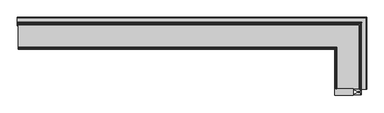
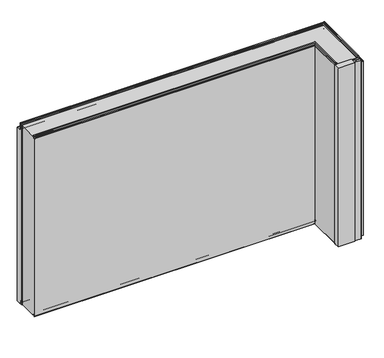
"""IFC4 building model written with IfcOpenShell, lengths in millimetres: plate geometry, Угловой модуль Fronttop : Угловой модуль Fronttop 150/1000."""

from ifc_helpers import new_model, si_unit, point, frame, frame_2d, origin, origin_with_axes, place, context, project, spatial, polyline, circle_curve, ellipse_curve, trimmed, segment, composite_curve, outline, extrude, source, transform, mapped, element, save
from ifc_brep_helpers import plane_surface, cylinder_surface, revolved_surface, advanced_brep


def plate_61fb994c(model_context):
    return source(origin(), model_context, "Body", "SolidModel", [
        extrude(outline(polyline([(800.0, -188.4948846), (800.0, -211.5051154), (798.5, -211.5051154), (798.5, -200.6502496), (784.0759655, -200.6502496), (784.0759655, -199.35), (798.5, -199.35), (798.5, -188.4948846), (800.0, -188.4948846)])), origin_with_axes(), (0.0, 0.0, 1.0), 1000.0),
        extrude(outline(composite_curve([segment(polyline([(798.5, -187.4998455), (798.5, -199.25), (782.5, -199.25), (782.5, -200.75), (798.5, -200.75), (798.5, -212.5001545), (765.0, -212.5001545), (765.0, -209.75), (767.5, -209.75)]), True, "CONTINUOUS"), segment(trimmed(circle_curve(frame_2d((764.3183984, -191.9661979)), 18.0661619), [point((767.5, -209.75))], [point((780.5, -200.0))], True, "CARTESIAN"), True, "CONTINUOUS"), segment(trimmed(circle_curve(frame_2d((764.3183984, -208.0338021)), 18.0661619), [point((780.5, -200.0))], [point((767.5, -190.25))], True, "CARTESIAN"), True, "CONTINUOUS"), segment(polyline([(767.5, -190.25), (765.0, -190.25), (765.0, -187.4998455), (798.5, -187.4998455)]), True, "CONTINUOUS")], self_intersect=False)), origin_with_axes(), (0.0, 0.0, 1.0), 1000.0),
        extrude(outline(polyline([(675.0, -215.5), (675.0, -184.5), (763.0, -184.5), (763.0, -215.5), (675.0, -215.5)])), origin_with_axes(), (0.0, 0.0, 1.0), 1000.0),
        advanced_brep(
        [(-811.5, 124.0, 1008.0), (-811.5, 121.0, 1008.0), (-811.5, 121.0, 1004.0), (-811.5, 117.0, 1000.0), (-811.5, 115.0, 1000.0), (-811.5, 115.0, 1001.0), (-811.5, 117.0, 1001.0), (-811.5, 120.0, 1004.0), (-811.5, 120.0, 1008.0), (-811.5, 125.0, 1008.0), (-811.5, 125.0, 1000.0), (-811.5, 124.0, 1000.0), (-811.5, 115.0, 2.0), (790.0, 115.0, 2.0), (790.0, 115.0, 3.0), (-811.5, 115.0, 3.0), (790.0, -186.5, 3.0), (792.0, -186.5, 3.0), (792.0, 117.0, 3.0), (-811.5, 117.0, 3.0), (793.0, 118.0, 4.0), (-811.5, 118.0, 4.0), (793.0, 118.0, 8.0), (-811.5, 118.0, 8.0), (802.0, 127.0, 8.0), (-811.5, 127.0, 8.0), (802.0, 127.0, 0.0), (-811.5, 127.0, 0.0), (804.0, 129.0, -2.0), (-811.5, 129.0, -2.0), (804.0, -186.5, -2.0), (822.0, -186.5, -2.0), (822.0, 147.0, -2.0), (-811.5, 147.0, -2.0), (824.0, 149.0, 0.0), (-811.5, 149.0, 0.0), (824.0, 149.0, 969.0), (-811.5, 149.0, 969.0), (822.0, 147.0, 971.0), (-811.5, 147.0, 971.0), (822.0, -186.5, 971.0), (803.0, -186.5, 971.0), (803.0, 128.0, 971.0), (-811.5, 128.0, 971.0), (799.0, 124.0, 975.0), (-811.5, 124.0, 975.0), (799.0, 124.0, 1008.0), (796.0, 121.0, 1008.0), (796.0, 121.0, 1004.0), (792.0, 117.0, 1000.0), (792.0, -186.5, 1000.0), (790.0, -186.5, 1000.0), (790.0, 115.0, 1000.0), (790.0, 115.0, 1001.0), (790.0, -186.5, 1001.0), (792.0, -186.5, 1001.0), (792.0, 117.0, 1001.0), (795.0, 120.0, 1004.0), (795.0, 120.0, 1008.0), (800.0, 125.0, 1008.0), (800.0, 125.0, 975.0), (-811.5, 125.0, 975.0), (-812.5, 125.0, 975.0), (-812.5, 125.0, 1000.0), (803.0, 128.0, 972.0), (-811.5, 128.0, 972.0), (803.0, -186.5, 972.0), (803.0, -187.5, 972.0), (822.0, -187.5, 972.0), (822.0, -186.5, 972.0), (822.0, 147.0, 972.0), (-811.5, 147.0, 972.0), (-812.5, 147.0, 972.0), (-812.5, 128.0, 972.0), (825.0, 150.0, 969.0), (-811.5, 150.0, 969.0), (825.0, 150.0, 0.0), (-811.5, 150.0, 0.0), (-812.5, 150.0, 0.0), (-812.5, 150.0, 969.0), (822.0, 147.0, -3.0), (-811.5, 147.0, -3.0), (822.0, -186.5, -3.0), (822.0, -187.5, -3.0), (800.0, -187.5, -3.0), (800.0, -186.5, -3.0), (804.0, -186.5, -3.0), (804.0, 129.0, -3.0), (-811.5, 129.0, -3.0), (-811.5, 125.0, -3.0), (-812.5, 125.0, -3.0), (-812.5, 147.0, -3.0), (801.0, 126.0, 0.0), (-811.5, 126.0, 0.0), (801.0, 126.0, 8.0), (-811.5, 126.0, 8.0), (794.0, 119.0, 8.0), (-811.5, 119.0, 8.0), (794.0, 119.0, 4.0), (-811.5, 119.0, 4.0), (792.0, 117.0, 2.0), (-811.5, 117.0, 2.0), (792.0, -186.5, 2.0), (790.0, -186.5, 2.0), (796.0, -186.5, 1004.0), (796.0, -186.5, 1008.0), (799.0, -186.5, 1008.0), (799.0, -186.5, 1000.0), (800.0, -186.5, 1000.0), (800.0, -186.5, 1008.0), (795.0, -186.5, 1008.0), (795.0, -186.5, 1004.0), (793.0, -186.5, 4.0), (793.0, -186.5, 8.0), (802.0, -186.5, 8.0), (802.0, -186.5, 0.0), (824.0, -186.5, 0.0), (824.0, -186.5, 969.0), (799.0, -186.5, 975.0), (800.0, -187.5, 1000.0), (800.0, -187.5, 975.0), (800.0, -186.5, 975.0), (825.0, -186.5, 969.0), (825.0, -187.5, 969.0), (825.0, -187.5, 0.0), (825.0, -186.5, 0.0), (801.0, -186.5, 0.0), (801.0, -186.5, 8.0), (794.0, -186.5, 8.0), (794.0, -186.5, 4.0), (-811.5, 110.0, 1000.0), (-811.5, 110.0, 0.0), (-811.5, 125.0, 0.0), (-812.5, 125.0, 0.0), (-812.5, 110.0, 0.0), (-812.5, 110.0, 1000.0), (785.0, -186.5, 0.0), (785.0, -186.5, 1000.0), (800.0, -186.5, 0.0), (785.0, -187.5, 0.0), (800.0, -187.5, 0.0), (785.0, -187.5, 1000.0)],
        [
            (0, 1, circle_curve(frame((-811.5, 122.5, 1008.0), z_axis=(1.0, 0.0, 0.0), x_axis=(0.0, -1.0, 0.0)), 1.5)),
            (1, 2),
            (2, 3, circle_curve(frame((-811.5, 117.0, 1004.0), z_axis=(-1.0, 0.0, 0.0), x_axis=(0.0, -1.0, 0.0)), 4.0)),
            (3, 4),
            (4, 5),
            (5, 6),
            (6, 7, circle_curve(frame((-811.5, 117.0, 1004.0), z_axis=(1.0, 0.0, 0.0), x_axis=(0.0, -1.0, 0.0)), 3.0)),
            (7, 8),
            (8, 9, circle_curve(frame((-811.5, 122.5, 1008.0), z_axis=(-1.0, 0.0, 0.0), x_axis=(0.0, -1.0, 0.0)), 2.5)),
            (9, 10),
            (10, 11),
            (11, 0),
            (12, 13),
            (13, 14),
            (14, 15),
            (15, 12),
            (14, 16),
            (16, 17),
            (17, 18),
            (18, 19),
            (19, 15),
            (18, 20, ellipse_curve(frame((792.0, 117.0, 4.0), z_axis=(0.7071067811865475, -0.7071067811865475, 0.0), x_axis=(0.7071067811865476, 0.7071067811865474, 0.0)), 1.4142136, 1.0)),
            (20, 21),
            (21, 19, circle_curve(frame((-811.5, 117.0, 4.0), z_axis=(-1.0, 0.0, 0.0), x_axis=(0.0, -1.0, 0.0)), 1.0)),
            (20, 22),
            (22, 23),
            (23, 21),
            (22, 24, ellipse_curve(frame((797.5, 122.5, 8.0), z_axis=(-0.7071067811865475, 0.7071067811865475, 0.0), x_axis=(-0.7071067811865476, -0.7071067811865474, 0.0)), 6.363961, 4.5)),
            (24, 25),
            (25, 23, circle_curve(frame((-811.5, 122.5, 8.0), z_axis=(1.0, 0.0, 0.0), x_axis=(0.0, -1.0, 0.0)), 4.5)),
            (24, 26),
            (26, 27),
            (27, 25),
            (26, 28, ellipse_curve(frame((804.0, 129.0, 0.0), z_axis=(0.7071067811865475, -0.7071067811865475, 0.0), x_axis=(0.7071067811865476, 0.7071067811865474, 0.0)), 2.8284271, 2.0)),
            (28, 29),
            (29, 27, circle_curve(frame((-811.5, 129.0, 0.0), z_axis=(-1.0, 0.0, 0.0), x_axis=(0.0, -1.0, 0.0)), 2.0)),
            (28, 30),
            (30, 31),
            (31, 32),
            (32, 33),
            (33, 29),
            (32, 34, ellipse_curve(frame((822.0, 147.0, 0.0), z_axis=(0.7071067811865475, -0.7071067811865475, 0.0), x_axis=(0.7071067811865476, 0.7071067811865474, 0.0)), 2.8284271, 2.0)),
            (34, 35),
            (35, 33, circle_curve(frame((-811.5, 147.0, 0.0), z_axis=(-1.0, 0.0, 0.0), x_axis=(0.0, -1.0, 0.0)), 2.0)),
            (34, 36),
            (36, 37),
            (37, 35),
            (36, 38, ellipse_curve(frame((822.0, 147.0, 969.0), z_axis=(0.7071067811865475, -0.7071067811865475, 0.0), x_axis=(0.7071067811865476, 0.7071067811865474, 0.0)), 2.8284271, 2.0)),
            (38, 39),
            (39, 37, circle_curve(frame((-811.5, 147.0, 969.0), z_axis=(-1.0, 0.0, 0.0), x_axis=(0.0, -1.0, 0.0)), 2.0)),
            (38, 40),
            (40, 41),
            (41, 42),
            (42, 43),
            (43, 39),
            (42, 44, ellipse_curve(frame((803.0, 128.0, 975.0), z_axis=(-0.7071067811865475, 0.7071067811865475, 0.0), x_axis=(-0.7071067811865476, -0.7071067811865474, 0.0)), 5.6568542, 4.0)),
            (44, 45),
            (45, 43, circle_curve(frame((-811.5, 128.0, 975.0), z_axis=(1.0, 0.0, 0.0), x_axis=(0.0, -1.0, 0.0)), 4.0)),
            (44, 46),
            (46, 0),
            (11, 45),
            (46, 47, ellipse_curve(frame((797.5, 122.5, 1008.0), z_axis=(0.7071067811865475, -0.7071067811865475, 0.0), x_axis=(0.7071067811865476, 0.7071067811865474, 0.0)), 2.1213203, 1.5)),
            (47, 1),
            (47, 48),
            (48, 2),
            (48, 49, ellipse_curve(frame((792.0, 117.0, 1004.0), z_axis=(-0.7071067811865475, 0.7071067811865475, 0.0), x_axis=(-0.7071067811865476, -0.7071067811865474, 0.0)), 5.6568542, 4.0)),
            (49, 3),
            (49, 50),
            (50, 51),
            (51, 52),
            (52, 4),
            (4, 3),
            (52, 53),
            (53, 5),
            (53, 54),
            (54, 55),
            (55, 56),
            (56, 6),
            (56, 57, ellipse_curve(frame((792.0, 117.0, 1004.0), z_axis=(0.7071067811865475, -0.7071067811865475, 0.0), x_axis=(0.7071067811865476, 0.7071067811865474, 0.0)), 4.2426407, 3.0)),
            (57, 7),
            (57, 58),
            (58, 8),
            (58, 59, ellipse_curve(frame((797.5, 122.5, 1008.0), z_axis=(-0.7071067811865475, 0.7071067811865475, 0.0), x_axis=(-0.7071067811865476, -0.7071067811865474, 0.0)), 3.5355339, 2.5)),
            (59, 9),
            (59, 60),
            (60, 61),
            (61, 62),
            (62, 63),
            (63, 10),
            (60, 64, ellipse_curve(frame((803.0, 128.0, 975.0), z_axis=(0.7071067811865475, -0.7071067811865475, 0.0), x_axis=(0.7071067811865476, 0.7071067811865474, 0.0)), 4.2426407, 3.0)),
            (64, 65),
            (65, 61, circle_curve(frame((-811.5, 128.0, 975.0), z_axis=(-1.0, 0.0, 0.0), x_axis=(0.0, -1.0, 0.0)), 3.0)),
            (64, 66),
            (66, 67),
            (67, 68),
            (68, 69),
            (69, 70),
            (70, 71),
            (71, 72),
            (72, 73),
            (73, 65),
            (70, 74, ellipse_curve(frame((822.0, 147.0, 969.0), z_axis=(-0.7071067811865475, 0.7071067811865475, 0.0), x_axis=(-0.7071067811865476, -0.7071067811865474, 0.0)), 4.2426407, 3.0)),
            (74, 75),
            (75, 71, circle_curve(frame((-811.5, 147.0, 969.0), z_axis=(1.0, 0.0, 0.0), x_axis=(0.0, -1.0, 0.0)), 3.0)),
            (74, 76),
            (76, 77),
            (77, 78),
            (78, 79),
            (79, 75),
            (76, 80, ellipse_curve(frame((822.0, 147.0, 0.0), z_axis=(-0.7071067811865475, 0.7071067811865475, 0.0), x_axis=(-0.7071067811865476, -0.7071067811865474, 0.0)), 4.2426407, 3.0)),
            (80, 81),
            (81, 77, circle_curve(frame((-811.5, 147.0, 0.0), z_axis=(1.0, 0.0, 0.0), x_axis=(0.0, -1.0, 0.0)), 3.0)),
            (80, 82),
            (82, 83),
            (83, 84),
            (84, 85),
            (85, 86),
            (86, 87),
            (87, 88),
            (88, 89),
            (89, 90),
            (90, 91),
            (91, 81),
            (87, 92, ellipse_curve(frame((804.0, 129.0, 0.0), z_axis=(-0.7071067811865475, 0.7071067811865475, 0.0), x_axis=(-0.7071067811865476, -0.7071067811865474, 0.0)), 4.2426407, 3.0)),
            (92, 93),
            (93, 88, circle_curve(frame((-811.5, 129.0, 0.0), z_axis=(1.0, 0.0, 0.0), x_axis=(0.0, -1.0, 0.0)), 3.0)),
            (92, 94),
            (94, 95),
            (95, 93),
            (94, 96, ellipse_curve(frame((797.5, 122.5, 8.0), z_axis=(0.7071067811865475, -0.7071067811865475, 0.0), x_axis=(0.7071067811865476, 0.7071067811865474, 0.0)), 4.9497475, 3.5)),
            (96, 97),
            (97, 95, circle_curve(frame((-811.5, 122.5, 8.0), z_axis=(-1.0, 0.0, 0.0), x_axis=(0.0, -1.0, 0.0)), 3.5)),
            (96, 98),
            (98, 99),
            (99, 97),
            (98, 100, ellipse_curve(frame((792.0, 117.0, 4.0), z_axis=(-0.7071067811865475, 0.7071067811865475, 0.0), x_axis=(-0.7071067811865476, -0.7071067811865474, 0.0)), 2.8284271, 2.0)),
            (100, 101),
            (101, 99, circle_curve(frame((-811.5, 117.0, 4.0), z_axis=(1.0, 0.0, 0.0), x_axis=(0.0, -1.0, 0.0)), 2.0)),
            (12, 101),
            (100, 102),
            (102, 103),
            (103, 13),
            (54, 51),
            (51, 50),
            (50, 104, circle_curve(frame((792.0, -186.5, 1004.0), z_axis=(0.0, -1.0, 0.0), x_axis=(-1.0, 0.0, 0.0)), 4.0)),
            (104, 105),
            (105, 106, circle_curve(frame((797.5, -186.5, 1008.0), z_axis=(0.0, 1.0, 0.0), x_axis=(-1.0, 0.0, 0.0)), 1.5)),
            (106, 107),
            (107, 108),
            (108, 109),
            (109, 110, circle_curve(frame((797.5, -186.5, 1008.0), z_axis=(0.0, -1.0, 0.0), x_axis=(-1.0, 0.0, 0.0)), 2.5)),
            (110, 111),
            (111, 55, circle_curve(frame((792.0, -186.5, 1004.0), z_axis=(0.0, 1.0, 0.0), x_axis=(-1.0, 0.0, 0.0)), 3.0)),
            (103, 16),
            (17, 112, circle_curve(frame((792.0, -186.5, 4.0), z_axis=(0.0, -1.0, 0.0), x_axis=(-1.0, 0.0, 0.0)), 1.0)),
            (112, 20),
            (112, 113),
            (113, 22),
            (113, 114, circle_curve(frame((797.5, -186.5, 8.0), z_axis=(0.0, 1.0, 0.0), x_axis=(-1.0, 0.0, 0.0)), 4.5)),
            (114, 24),
            (114, 115),
            (115, 26),
            (115, 30, circle_curve(frame((804.0, -186.5, 0.0), z_axis=(0.0, -1.0, 0.0), x_axis=(-1.0, 0.0, 0.0)), 2.0)),
            (31, 116, circle_curve(frame((822.0, -186.5, 0.0), z_axis=(0.0, -1.0, 0.0), x_axis=(-1.0, 0.0, 0.0)), 2.0)),
            (116, 34),
            (116, 117),
            (117, 36),
            (117, 40, circle_curve(frame((822.0, -186.5, 969.0), z_axis=(0.0, -1.0, 0.0), x_axis=(-1.0, 0.0, 0.0)), 2.0)),
            (41, 118, circle_curve(frame((803.0, -186.5, 975.0), z_axis=(0.0, 1.0, 0.0), x_axis=(-1.0, 0.0, 0.0)), 4.0)),
            (118, 44),
            (118, 107),
            (106, 46),
            (105, 47),
            (104, 48),
            (111, 57),
            (110, 58),
            (109, 59),
            (108, 119),
            (119, 120),
            (120, 121),
            (121, 60),
            (121, 66, circle_curve(frame((803.0, -186.5, 975.0), z_axis=(0.0, -1.0, 0.0), x_axis=(-1.0, 0.0, 0.0)), 3.0)),
            (69, 122, circle_curve(frame((822.0, -186.5, 969.0), z_axis=(0.0, 1.0, 0.0), x_axis=(-1.0, 0.0, 0.0)), 3.0)),
            (122, 74),
            (122, 123),
            (123, 124),
            (124, 125),
            (125, 76),
            (125, 82, circle_curve(frame((822.0, -186.5, 0.0), z_axis=(0.0, 1.0, 0.0), x_axis=(-1.0, 0.0, 0.0)), 3.0)),
            (86, 126, circle_curve(frame((804.0, -186.5, 0.0), z_axis=(0.0, 1.0, 0.0), x_axis=(-1.0, 0.0, 0.0)), 3.0)),
            (126, 92),
            (126, 127),
            (127, 94),
            (127, 128, circle_curve(frame((797.5, -186.5, 8.0), z_axis=(0.0, -1.0, 0.0), x_axis=(-1.0, 0.0, 0.0)), 3.5)),
            (128, 96),
            (128, 129),
            (129, 98),
            (129, 102, circle_curve(frame((792.0, -186.5, 4.0), z_axis=(0.0, 1.0, 0.0), x_axis=(-1.0, 0.0, 0.0)), 2.0)),
            (130, 131),
            (131, 132),
            (132, 89),
            (11, 3),
            (4, 130),
            (62, 73, circle_curve(frame((-812.5, 128.0, 975.0), z_axis=(1.0, 0.0, 0.0), x_axis=(0.0, 1.0, 0.0)), 3.0)),
            (72, 79, circle_curve(frame((-812.5, 147.0, 969.0), z_axis=(-1.0, 0.0, 0.0), x_axis=(0.0, 1.0, 0.0)), 3.0)),
            (78, 91, circle_curve(frame((-812.5, 147.0, 0.0), z_axis=(-1.0, 0.0, 0.0), x_axis=(0.0, 1.0, 0.0)), 3.0)),
            (90, 133),
            (133, 134),
            (134, 135),
            (135, 63),
            (135, 130),
            (134, 131),
            (133, 132),
            (136, 137),
            (137, 51),
            (50, 107),
            (85, 138),
            (138, 136),
            (139, 140),
            (140, 84),
            (83, 124, circle_curve(frame((822.0, -187.5, 0.0), z_axis=(0.0, -1.0, 0.0), x_axis=(-1.0, 0.0, 0.0)), 3.0)),
            (123, 68, circle_curve(frame((822.0, -187.5, 969.0), z_axis=(0.0, -1.0, 0.0), x_axis=(-1.0, 0.0, 0.0)), 3.0)),
            (67, 120, circle_curve(frame((803.0, -187.5, 975.0), z_axis=(0.0, 1.0, 0.0), x_axis=(-1.0, 0.0, 0.0)), 3.0)),
            (119, 141),
            (141, 139),
            (138, 140),
            (139, 136),
            (137, 141),
        ],
        [
            plane_surface(frame((-811.5, 0.0, 0.0), z_axis=(-1.0, 0.0, 0.0), x_axis=(0.0, 0.0, 1.0))),
            plane_surface(frame((-811.5, 115.0, 2.0), z_axis=(0.0, -1.0, 0.0), x_axis=(1.0, 0.0, 0.0))),
            plane_surface(frame((-811.5, 115.0, 3.0), z_axis=(0.0, 0.0, 1.0), x_axis=(1.0, 0.0, 0.0))),
            revolved_surface(polyline([(793.0000000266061, 116.0, 4.0), (-811.5, 116.0, 4.0)]), (-811.5, 117.0, 4.0), (1.0, 0.0, 0.0)),
            plane_surface(frame((-811.5, 118.0, 4.0), z_axis=(0.0, -1.0, 0.0), x_axis=(1.0, 0.0, 0.0))),
            cylinder_surface(frame((-811.5, 122.5, 8.0), z_axis=(-1.0, 0.0, 0.0), x_axis=(0.0, -1.0, 0.0)), 4.5),
            plane_surface(frame((-811.5, 127.0, 8.0), z_axis=(0.0, 1.0, 0.0), x_axis=(1.0, 0.0, 0.0))),
            revolved_surface(polyline([(805.9999999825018, 127.0, 0.0), (-811.5, 127.0, 0.0)]), (-811.5, 129.0, 0.0), (1.0, 0.0, 0.0)),
            plane_surface(frame((-811.5, 129.0, -2.0), z_axis=(0.0, 0.0, 1.0), x_axis=(1.0, 0.0, 0.0))),
            revolved_surface(polyline([(824.0, 145.0, 0.0), (-811.5, 145.0, 0.0)]), (-811.5, 147.0, 0.0), (1.0, 0.0, 0.0)),
            plane_surface(frame((-811.5, 149.0, 0.0), z_axis=(0.0, -1.0, 0.0), x_axis=(1.0, 0.0, 0.0))),
            revolved_surface(polyline([(824.0, 145.0, 969.0), (-811.5, 145.0, 969.0)]), (-811.5, 147.0, 969.0), (1.0, 0.0, 0.0)),
            plane_surface(frame((-811.5, 147.0, 971.0), z_axis=(0.0, 0.0, -1.0), x_axis=(1.0, 0.0, 0.0))),
            cylinder_surface(frame((-811.5, 128.0, 975.0), z_axis=(-1.0, 0.0, 0.0), x_axis=(0.0, -1.0, 0.0)), 4.0),
            plane_surface(frame((-811.5, 124.0, 975.0), z_axis=(0.0, -1.0, 0.0), x_axis=(1.0, 0.0, 0.0))),
            revolved_surface(polyline([(799.0, 121.0, 1008.0), (-811.5, 121.0, 1008.0)]), (-811.5, 122.5, 1008.0), (1.0, 0.0, 0.0)),
            plane_surface(frame((-811.5, 121.0, 1008.0), z_axis=(0.0, 1.0, 0.0), x_axis=(1.0, 0.0, 0.0))),
            cylinder_surface(frame((-811.5, 117.0, 1004.0), z_axis=(-1.0, 0.0, 0.0), x_axis=(0.0, -1.0, 0.0)), 4.0),
            plane_surface(frame((-811.5, 117.0, 1000.0), z_axis=(0.0, 0.0, -1.0), x_axis=(1.0, 0.0, 0.0))),
            plane_surface(frame((-811.5, 115.0, 1000.0), z_axis=(0.0, -1.0, 0.0), x_axis=(1.0, 0.0, 0.0))),
            plane_surface(frame((-811.5, 115.0, 1001.0), z_axis=(0.0, 0.0, 1.0), x_axis=(1.0, 0.0, 0.0))),
            revolved_surface(polyline([(795.0000000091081, 114.0, 1004.0), (-811.5, 114.0, 1004.0)]), (-811.5, 117.0, 1004.0), (1.0, 0.0, 0.0)),
            plane_surface(frame((-811.5, 120.0, 1004.0), z_axis=(0.0, -1.0, 0.0), x_axis=(1.0, 0.0, 0.0))),
            cylinder_surface(frame((-811.5, 122.5, 1008.0), z_axis=(-1.0, 0.0, 0.0), x_axis=(0.0, -1.0, 0.0)), 2.5),
            plane_surface(frame((-811.5, 125.0, 1008.0), z_axis=(0.0, 1.0, 0.0), x_axis=(1.0, 0.0, 0.0))),
            revolved_surface(polyline([(806.0000000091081, 125.0, 975.0), (-811.5, 125.0, 975.0)]), (-811.5, 128.0, 975.0), (1.0, 0.0, 0.0)),
            plane_surface(frame((-811.5, 128.0, 972.0), z_axis=(0.0, 0.0, 1.0), x_axis=(1.0, 0.0, 0.0))),
            cylinder_surface(frame((-811.5, 147.0, 969.0), z_axis=(-1.0, 0.0, 0.0), x_axis=(0.0, -1.0, 0.0)), 3.0),
            plane_surface(frame((-811.5, 150.0, 969.0), z_axis=(0.0, 1.0, 0.0), x_axis=(1.0, 0.0, 0.0))),
            cylinder_surface(frame((-811.5, 147.0, 0.0), z_axis=(-1.0, 0.0, 0.0), x_axis=(0.0, -1.0, 0.0)), 3.0),
            plane_surface(frame((-811.5, 147.0, -3.0), z_axis=(0.0, 0.0, -1.0), x_axis=(1.0, 0.0, 0.0))),
            cylinder_surface(frame((-811.5, 129.0, 0.0), z_axis=(-1.0, 0.0, 0.0), x_axis=(0.0, -1.0, 0.0)), 3.0),
            plane_surface(frame((-811.5, 126.0, 0.0), z_axis=(0.0, -1.0, 0.0), x_axis=(1.0, 0.0, 0.0))),
            revolved_surface(polyline([(801.0000000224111, 119.0, 8.0), (-811.5, 119.0, 8.0)]), (-811.5, 122.5, 8.0), (1.0, 0.0, 0.0)),
            plane_surface(frame((-811.5, 119.0, 8.0), z_axis=(0.0, 1.0, 0.0), x_axis=(1.0, 0.0, 0.0))),
            cylinder_surface(frame((-811.5, 117.0, 4.0), z_axis=(-1.0, 0.0, 0.0), x_axis=(0.0, -1.0, 0.0)), 2.0),
            plane_surface(frame((-811.5, 117.0, 2.0), z_axis=(0.0, 0.0, -1.0), x_axis=(1.0, 0.0, 0.0))),
            plane_surface(frame((675.0, -186.5, 0.0), z_axis=(0.0, -1.0, 0.0), x_axis=(0.0, 0.0, 1.0))),
            plane_surface(frame((790.0, 115.0, 2.0), z_axis=(-1.0, 0.0, 0.0), x_axis=(0.0, -1.0, 0.0))),
            revolved_surface(polyline([(791.0, -186.5, 4.0), (791.0, 118.00000002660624, 4.0)]), (792.0, 0.0, 4.0), (0.0, -1.0, 0.0)),
            plane_surface(frame((793.0, 118.0, 4.0), z_axis=(-1.0, 0.0, 0.0), x_axis=(0.0, -1.0, 0.0))),
            cylinder_surface(frame((797.5, 0.0, 8.0), z_axis=(0.0, 1.0, 0.0), x_axis=(-1.0, 0.0, 0.0)), 4.5),
            plane_surface(frame((802.0, 127.0, 8.0), z_axis=(1.0, 0.0, 0.0), x_axis=(0.0, -1.0, 0.0))),
            revolved_surface(polyline([(802.0, -186.5, 0.0), (802.0, 130.9999999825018, 0.0)]), (804.0, 0.0, 0.0), (0.0, -1.0, 0.0)),
            revolved_surface(polyline([(820.0, -186.5, 0.0), (820.0, 149.0, 0.0)]), (822.0, 0.0, 0.0), (0.0, -1.0, 0.0)),
            plane_surface(frame((824.0, 149.0, 0.0), z_axis=(-1.0, 0.0, 0.0), x_axis=(0.0, -1.0, 0.0))),
            revolved_surface(polyline([(820.0, -186.5, 969.0), (820.0, 149.0, 969.0)]), (822.0, 0.0, 969.0), (0.0, -1.0, 0.0)),
            cylinder_surface(frame((803.0, 0.0, 975.0), z_axis=(0.0, 1.0, 0.0), x_axis=(-1.0, 0.0, 0.0)), 4.0),
            plane_surface(frame((799.0, 124.0, 975.0), z_axis=(-1.0, 0.0, 0.0), x_axis=(0.0, -1.0, 0.0))),
            revolved_surface(polyline([(796.0, -186.5, 1008.0), (796.0, 124.0, 1008.0)]), (797.5, 0.0, 1008.0), (0.0, -1.0, 0.0)),
            plane_surface(frame((796.0, 121.0, 1008.0), z_axis=(1.0, 0.0, 0.0), x_axis=(0.0, -1.0, 0.0))),
            cylinder_surface(frame((792.0, 0.0, 1004.0), z_axis=(0.0, 1.0, 0.0), x_axis=(-1.0, 0.0, 0.0)), 4.0),
            plane_surface(frame((790.0, 115.0, 1000.0), z_axis=(-1.0, 0.0, 0.0), x_axis=(0.0, -1.0, 0.0))),
            revolved_surface(polyline([(789.0, -186.5, 1004.0), (789.0, 120.00000000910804, 1004.0)]), (792.0, 0.0, 1004.0), (0.0, -1.0, 0.0)),
            plane_surface(frame((795.0, 120.0, 1004.0), z_axis=(-1.0, 0.0, 0.0), x_axis=(0.0, -1.0, 0.0))),
            cylinder_surface(frame((797.5, 0.0, 1008.0), z_axis=(0.0, 1.0, 0.0), x_axis=(-1.0, 0.0, 0.0)), 2.5),
            plane_surface(frame((800.0, 125.0, 1008.0), z_axis=(1.0, 0.0, 0.0), x_axis=(0.0, -1.0, 0.0))),
            revolved_surface(polyline([(800.0, -186.5, 975.0), (800.0, 131.00000000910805, 975.0)]), (803.0, 0.0, 975.0), (0.0, -1.0, 0.0)),
            cylinder_surface(frame((822.0, 0.0, 969.0), z_axis=(0.0, 1.0, 0.0), x_axis=(-1.0, 0.0, 0.0)), 3.0),
            plane_surface(frame((825.0, 150.0, 969.0), z_axis=(1.0, 0.0, 0.0), x_axis=(0.0, -1.0, 0.0))),
            cylinder_surface(frame((822.0, 0.0, 0.0), z_axis=(0.0, 1.0, 0.0), x_axis=(-1.0, 0.0, 0.0)), 3.0),
            cylinder_surface(frame((804.0, 0.0, 0.0), z_axis=(0.0, 1.0, 0.0), x_axis=(-1.0, 0.0, 0.0)), 3.0),
            plane_surface(frame((801.0, 126.0, 0.0), z_axis=(-1.0, 0.0, 0.0), x_axis=(0.0, -1.0, 0.0))),
            revolved_surface(polyline([(794.0, -186.5, 8.0), (794.0, 126.00000002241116, 8.0)]), (797.5, 0.0, 8.0), (0.0, -1.0, 0.0)),
            plane_surface(frame((794.0, 119.0, 8.0), z_axis=(1.0, 0.0, 0.0), x_axis=(0.0, -1.0, 0.0))),
            cylinder_surface(frame((792.0, 0.0, 4.0), z_axis=(0.0, 1.0, 0.0), x_axis=(-1.0, 0.0, 0.0)), 2.0),
            plane_surface(frame((-811.5, 125.0, 1000.0), z_axis=(1.0, 0.0, 0.0), x_axis=(0.0, -1.0, 0.0))),
            plane_surface(frame((-812.5, 125.0, 1000.0), z_axis=(-1.0, 0.0, 0.0), x_axis=(0.0, 1.0, 0.0))),
            plane_surface(frame((-811.5, 125.0, 1000.0), z_axis=(0.0, 0.0, 1.0), x_axis=(-1.0, 0.0, 0.0))),
            plane_surface(frame((-811.5, 110.0, 1000.0), z_axis=(0.0, -1.0, 0.0), x_axis=(-1.0, 0.0, 0.0))),
            plane_surface(frame((-811.5, 110.0, 0.0), z_axis=(0.0, 0.0, -1.0), x_axis=(-1.0, 0.0, 0.0))),
            plane_surface(frame((-811.5, 125.0, 0.0), z_axis=(0.0, -1.0, 0.0), x_axis=(-1.0, 0.0, 0.0))),
            cylinder_surface(frame((-812.5, 147.0, 0.0), z_axis=(1.0, 0.0, 0.0), x_axis=(0.0, 1.0, 0.0)), 3.0),
            cylinder_surface(frame((-812.5, 147.0, 969.0), z_axis=(1.0, 0.0, 0.0), x_axis=(0.0, 1.0, 0.0)), 3.0),
            revolved_surface(polyline([(-812.5, 131.0, 975.0), (-811.5, 131.0, 975.0)]), (-812.5, 128.0, 975.0), (-1.0, 0.0, 0.0)),
            plane_surface(frame((785.0, -186.5, 1000.0), z_axis=(0.0, 1.0, 0.0), x_axis=(0.0, 0.0, 1.0))),
            plane_surface(frame((785.0, -187.5, 1000.0), z_axis=(0.0, -1.0, 0.0), x_axis=(0.0, 0.0, -1.0))),
            plane_surface(frame((800.0, -186.5, 0.0), z_axis=(0.0, 0.0, -1.0), x_axis=(0.0, -1.0, 0.0))),
            plane_surface(frame((800.0, -186.5, -3.0), z_axis=(-1.0, 0.0, 0.0), x_axis=(0.0, -1.0, 0.0))),
            cylinder_surface(frame((822.0, -187.5, 0.0), z_axis=(0.0, 1.0, 0.0), x_axis=(-1.0, 0.0, 0.0)), 3.0),
            cylinder_surface(frame((822.0, -187.5, 969.0), z_axis=(0.0, 1.0, 0.0), x_axis=(-1.0, 0.0, 0.0)), 3.0),
            revolved_surface(polyline([(800.0, -187.5, 975.0), (800.0, -186.5, 975.0)]), (803.0, -187.5, 975.0), (0.0, -1.0, 0.0)),
            plane_surface(frame((785.0, -186.5, 1000.0), z_axis=(0.0, 0.0, 1.0), x_axis=(0.0, -1.0, 0.0))),
            plane_surface(frame((785.0, -186.5, 0.0), z_axis=(-1.0, 0.0, 0.0), x_axis=(0.0, -1.0, 0.0))),
        ],
        [
            (0, [[1, 2, 3, 4, 5, 6, 7, 8, 9, 10, 11, 12]]),
            (1, [[13, 14, 15, 16]]),
            (2, [[-15, 17, 18, 19, 20, 21]]),
            (3, [[-20, 22, 23, 24]]),
            (4, [[-23, 25, 26, 27]]),
            (5, [[-26, 28, 29, 30]]),
            (6, [[-29, 31, 32, 33]]),
            (7, [[-32, 34, 35, 36]]),
            (8, [[-35, 37, 38, 39, 40, 41]]),
            (9, [[-40, 42, 43, 44]]),
            (10, [[-43, 45, 46, 47]]),
            (11, [[-46, 48, 49, 50]]),
            (12, [[-49, 51, 52, 53, 54, 55]]),
            (13, [[-54, 56, 57, 58]]),
            (14, [[-57, 59, 60, -12, 61]]),
            (15, [[-1, -60, 62, 63]]),
            (16, [[-2, -63, 64, 65]]),
            (17, [[-3, -65, 66, 67]]),
            (18, [[-67, 68, 69, 70, 71, 72]]),
            (19, [[-5, -71, 73, 74]]),
            (20, [[-6, -74, 75, 76, 77, 78]]),
            (21, [[-7, -78, 79, 80]]),
            (22, [[-8, -80, 81, 82]]),
            (23, [[-9, -82, 83, 84]]),
            (24, [[-84, 85, 86, 87, 88, 89, -10]]),
            (25, [[-86, 90, 91, 92]]),
            (26, [[-91, 93, 94, 95, 96, 97, 98, 99, 100, 101]]),
            (27, [[-98, 102, 103, 104]]),
            (28, [[-103, 105, 106, 107, 108, 109]]),
            (29, [[-106, 110, 111, 112]]),
            (30, [[-111, 113, 114, 115, 116, 117, 118, 119, 120, 121, 122, 123]]),
            (31, [[-119, 124, 125, 126]]),
            (32, [[-125, 127, 128, 129]]),
            (33, [[-128, 130, 131, 132]]),
            (34, [[-131, 133, 134, 135]]),
            (35, [[-134, 136, 137, 138]]),
            (36, [[-13, 139, -137, 140, 141, 142]]),
            (37, [[-76, 143, 144, 145, 146, 147, 148, 149, 150, 151, 152, 153]]),
            (38, [[-14, -142, 154, -17]]),
            (39, [[-19, 155, 156, -22]]),
            (40, [[-25, -156, 157, 158]]),
            (41, [[-28, -158, 159, 160]]),
            (42, [[-31, -160, 161, 162]]),
            (43, [[-34, -162, 163, -37]]),
            (44, [[-39, 164, 165, -42]]),
            (45, [[-45, -165, 166, 167]]),
            (46, [[-48, -167, 168, -51]]),
            (47, [[-53, 169, 170, -56]]),
            (48, [[-59, -170, 171, -148, 172]]),
            (49, [[-62, -172, -147, 173]]),
            (50, [[-64, -173, -146, 174]]),
            (51, [[-66, -174, -145, -68]]),
            (52, [[-70, -143, -75, -73]]),
            (53, [[-77, -153, 175, -79]]),
            (54, [[-81, -175, -152, 176]]),
            (55, [[-83, -176, -151, 177]]),
            (56, [[-85, -177, -150, 178, 179, 180, 181]]),
            (57, [[-90, -181, 182, -93]]),
            (58, [[-97, 183, 184, -102]]),
            (59, [[-105, -184, 185, 186, 187, 188]]),
            (60, [[-110, -188, 189, -113]]),
            (61, [[-118, 190, 191, -124]]),
            (62, [[-127, -191, 192, 193]]),
            (63, [[-130, -193, 194, 195]]),
            (64, [[-133, -195, 196, 197]]),
            (65, [[-136, -197, 198, -140]]),
            (66, [[199, 200, 201, -120, -126, -129, -132, -135, -138, -139, -16, -21, -24, -27, -30, -33, -36, -41, -44, -47, -50, -55, -58, -61, 202, -72, 203]]),
            (67, [[-88, 204, -100, 205, -108, 206, -122, 207, 208, 209, 210]]),
            (68, [[-210, 211, -203, -4, -202, -11, -89]]),
            (69, [[-199, -211, -209, 212]]),
            (70, [[-200, -212, -208, 213]]),
            (71, [[-201, -213, -207, -121]]),
            (72, [[-206, -107, -112, -123]]),
            (73, [[-205, -99, -104, -109]]),
            (74, [[-204, -87, -92, -101]]),
            (75, [[214, 215, -69, 216, -171, -169, -52, -168, -166, -164, -38, -163, -161, -159, -157, -155, -18, -154, -141, -198, -196, -194, -192, -190, -117, 217, 218]]),
            (76, [[219, 220, -115, 221, -186, 222, -95, 223, -179, 224, 225]]),
            (77, [[-218, 226, -219, 227]]),
            (78, [[-217, -116, -220, -226]]),
            (79, [[-221, -114, -189, -187]]),
            (80, [[-222, -185, -183, -96]]),
            (81, [[-223, -94, -182, -180]]),
            (82, [[-224, -178, -149, -216, -144, -215, 228]]),
            (83, [[-214, -227, -225, -228]]),
        ],
    ),
        advanced_brep(
        [(-809.5, 15.0, 3.0), (-809.5, 13.0, 3.0), (-809.5, 12.0, 4.0), (-809.5, 12.0, 8.0), (-809.5, 3.0, 8.0), (-809.5, 3.0, -0.5), (-809.5, 1.0, -0.5), (-809.5, 1.0, 995.0278643), (-809.5, 2.1111111, 996.0216723), (-809.5, 6.0, 999.5), (-809.5, 6.0, 1008.0), (-809.5, 9.0, 1008.0), (-809.5, 9.0, 1004.0), (-809.5, 13.0, 1000.0), (-809.5, 117.0, 1000.0), (-809.5, 121.0, 1004.0), (-809.5, 121.0, 1008.0), (-809.5, 124.0, 1008.0), (-809.5, 124.0, 975.0), (-809.5, 128.0, 971.0), (-809.5, 147.0, 971.0), (-809.5, 149.0, 969.0), (-809.5, 149.0, 0.0), (-809.5, 147.0, -2.0), (-809.5, 129.0, -2.0), (-809.5, 127.0, 0.0), (-809.5, 127.0, 8.0), (-809.5, 118.0, 8.0), (-809.5, 118.0, 4.0), (-809.5, 117.0, 3.0), (-809.5, 115.0, 3.0), (-809.5, 115.0, 0.0), (-809.5, 15.0, 0.0), (690.0, 15.0, 0.0), (690.0, 15.0, 3.0), (790.0, 115.0, 0.0), (790.0, -184.5, 0.0), (690.0, -184.5, 0.0), (790.0, 115.0, 3.0), (792.0, 117.0, 3.0), (792.0, -184.5, 3.0), (790.0, -184.5, 3.0), (793.0, 118.0, 4.0), (793.0, 118.0, 8.0), (802.0, 127.0, 8.0), (802.0, 127.0, 0.0), (804.0, 129.0, -2.0), (822.0, 147.0, -2.0), (822.0, -184.5, -2.0), (804.0, -184.5, -2.0), (824.0, 149.0, 0.0), (824.0, 149.0, 969.0), (822.0, 147.0, 971.0), (803.0, 128.0, 971.0), (803.0, -184.5, 971.0), (822.0, -184.5, 971.0), (799.0, 124.0, 975.0), (799.0, 124.0, 1008.0), (796.0, 121.0, 1008.0), (796.0, 121.0, 1004.0), (792.0, 117.0, 1000.0), (688.0, 13.0, 1000.0), (688.0, -184.5, 1000.0), (792.0, -184.5, 1000.0), (684.0, 9.0, 1004.0), (684.0, 9.0, 1008.0), (681.0, 6.0, 1008.0), (681.0, 6.0, 999.5), (677.1111111, 2.1111111, 996.021672), (676.0, 1.0, 995.0278643), (676.0, 1.0, -0.5), (678.0, 3.0, -0.5), (678.0, 3.0, 8.0), (687.0, 12.0, 8.0), (687.0, 12.0, 4.0), (688.0, 13.0, 3.0), (690.0, -184.5, 3.0), (688.0, -184.5, 3.0), (793.0, -184.5, 4.0), (793.0, -184.5, 8.0), (802.0, -184.5, 8.0), (802.0, -184.5, 0.0), (824.0, -184.5, 0.0), (824.0, -184.5, 969.0), (799.0, -184.5, 975.0), (799.0, -184.5, 1008.0), (796.0, -184.5, 1008.0), (796.0, -184.5, 1004.0), (684.0, -184.5, 1004.0), (684.0, -184.5, 1008.0), (681.0, -184.5, 1008.0), (681.0, -184.5, 999.5), (677.1111111, -184.5, 996.021672), (676.0, -184.5, 995.0278643), (676.0, -184.5, -0.5), (678.0, -184.5, -0.5), (678.0, -184.5, 8.0), (687.0, -184.5, 8.0), (687.0, -184.5, 4.0)],
        [
            (0, 1),
            (1, 2, circle_curve(frame((-809.5, 13.0, 4.0), z_axis=(-1.0, 0.0, 0.0), x_axis=(0.0, -1.0, 0.0)), 1.0)),
            (2, 3),
            (3, 4, circle_curve(frame((-809.5, 7.5, 8.0), z_axis=(1.0, 0.0, 0.0), x_axis=(0.0, -1.0, 0.0)), 4.5)),
            (4, 5),
            (5, 6, circle_curve(frame((-809.5, 2.0, -0.5), z_axis=(-1.0, 0.0, 0.0), x_axis=(0.0, -1.0, 0.0)), 1.0)),
            (6, 7),
            (7, 8, circle_curve(frame((-809.5, 2.0, 995.0278643), z_axis=(-1.0, 0.0, 0.0), x_axis=(0.0, -1.0, 0.0)), 1.0)),
            (8, 9, circle_curve(frame((-809.5, 2.5, 999.5), z_axis=(1.0, 0.0, 0.0), x_axis=(0.0, -1.0, 0.0)), 3.5)),
            (9, 10),
            (10, 11, circle_curve(frame((-809.5, 7.5, 1008.0), z_axis=(-1.0, 0.0, 0.0), x_axis=(0.0, -1.0, 0.0)), 1.5)),
            (11, 12),
            (12, 13, circle_curve(frame((-809.5, 13.0, 1004.0), z_axis=(1.0, 0.0, 0.0), x_axis=(0.0, -1.0, 0.0)), 4.0)),
            (13, 14),
            (14, 15, circle_curve(frame((-809.5, 117.0, 1004.0), z_axis=(1.0, 0.0, 0.0), x_axis=(0.0, -1.0, 0.0)), 4.0)),
            (15, 16),
            (16, 17, circle_curve(frame((-809.5, 122.5, 1008.0), z_axis=(-1.0, 0.0, 0.0), x_axis=(0.0, -1.0, 0.0)), 1.5)),
            (17, 18),
            (18, 19, circle_curve(frame((-809.5, 128.0, 975.0), z_axis=(1.0, 0.0, 0.0), x_axis=(0.0, -1.0, 0.0)), 4.0)),
            (19, 20),
            (20, 21, circle_curve(frame((-809.5, 147.0, 969.0), z_axis=(-1.0, 0.0, 0.0), x_axis=(0.0, -1.0, 0.0)), 2.0)),
            (21, 22),
            (22, 23, circle_curve(frame((-809.5, 147.0, 0.0), z_axis=(-1.0, 0.0, 0.0), x_axis=(0.0, -1.0, 0.0)), 2.0)),
            (23, 24),
            (24, 25, circle_curve(frame((-809.5, 129.0, 0.0), z_axis=(-1.0, 0.0, 0.0), x_axis=(0.0, -1.0, 0.0)), 2.0)),
            (25, 26),
            (26, 27, circle_curve(frame((-809.5, 122.5, 8.0), z_axis=(1.0, 0.0, 0.0), x_axis=(0.0, -1.0, 0.0)), 4.5)),
            (27, 28),
            (28, 29, circle_curve(frame((-809.5, 117.0, 4.0), z_axis=(-1.0, 0.0, 0.0), x_axis=(0.0, -1.0, 0.0)), 1.0)),
            (29, 30),
            (30, 31),
            (31, 32),
            (32, 0),
            (32, 33),
            (33, 34),
            (34, 0),
            (31, 35),
            (35, 36),
            (36, 37),
            (37, 33),
            (30, 38),
            (38, 35),
            (29, 39),
            (39, 40),
            (40, 41),
            (41, 38),
            (28, 42),
            (42, 39, ellipse_curve(frame((792.0, 117.0, 4.0), z_axis=(-0.7071067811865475, 0.7071067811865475, 0.0), x_axis=(-0.7071067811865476, -0.7071067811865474, 0.0)), 1.4142136, 1.0)),
            (27, 43),
            (43, 42),
            (26, 44),
            (44, 43, ellipse_curve(frame((797.5, 122.5, 8.0), z_axis=(0.7071067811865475, -0.7071067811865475, 0.0), x_axis=(0.7071067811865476, 0.7071067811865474, 0.0)), 6.363961, 4.5)),
            (25, 45),
            (45, 44),
            (24, 46),
            (46, 45, ellipse_curve(frame((804.0, 129.0, 0.0), z_axis=(-0.7071067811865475, 0.7071067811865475, 0.0), x_axis=(-0.7071067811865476, -0.7071067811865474, 0.0)), 2.8284271, 2.0)),
            (23, 47),
            (47, 48),
            (48, 49),
            (49, 46),
            (22, 50),
            (50, 47, ellipse_curve(frame((822.0, 147.0, 0.0), z_axis=(-0.7071067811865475, 0.7071067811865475, 0.0), x_axis=(-0.7071067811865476, -0.7071067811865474, 0.0)), 2.8284271, 2.0)),
            (21, 51),
            (51, 50),
            (20, 52),
            (52, 51, ellipse_curve(frame((822.0, 147.0, 969.0), z_axis=(-0.7071067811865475, 0.7071067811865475, 0.0), x_axis=(-0.7071067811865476, -0.7071067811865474, 0.0)), 2.8284271, 2.0)),
            (19, 53),
            (53, 54),
            (54, 55),
            (55, 52),
            (18, 56),
            (56, 53, ellipse_curve(frame((803.0, 128.0, 975.0), z_axis=(0.7071067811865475, -0.7071067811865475, 0.0), x_axis=(0.7071067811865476, 0.7071067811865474, 0.0)), 5.6568542, 4.0)),
            (17, 57),
            (57, 56),
            (16, 58),
            (58, 57, ellipse_curve(frame((797.5, 122.5, 1008.0), z_axis=(-0.7071067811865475, 0.7071067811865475, 0.0), x_axis=(-0.7071067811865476, -0.7071067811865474, 0.0)), 2.1213203, 1.5)),
            (15, 59),
            (59, 58),
            (14, 60),
            (60, 59, ellipse_curve(frame((792.0, 117.0, 1004.0), z_axis=(0.7071067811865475, -0.7071067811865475, 0.0), x_axis=(0.7071067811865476, 0.7071067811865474, 0.0)), 5.6568542, 4.0)),
            (13, 61),
            (61, 62),
            (62, 63),
            (63, 60),
            (12, 64),
            (64, 61, ellipse_curve(frame((688.0, 13.0, 1004.0), z_axis=(0.7071067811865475, -0.7071067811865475, 0.0), x_axis=(0.7071067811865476, 0.7071067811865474, 0.0)), 5.6568542, 4.0)),
            (11, 65),
            (65, 64),
            (10, 66),
            (66, 65, ellipse_curve(frame((682.5, 7.5, 1008.0), z_axis=(-0.7071067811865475, 0.7071067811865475, 0.0), x_axis=(-0.7071067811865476, -0.7071067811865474, 0.0)), 2.1213204, 1.5)),
            (9, 67),
            (67, 66),
            (8, 68),
            (68, 67, ellipse_curve(frame((677.5, 2.5, 999.5), z_axis=(0.7071067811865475, -0.7071067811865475, 0.0), x_axis=(0.7071067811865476, 0.7071067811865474, 0.0)), 4.9497475, 3.5)),
            (7, 69),
            (69, 68, ellipse_curve(frame((677.0, 2.0, 995.0278643), z_axis=(-0.7071067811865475, 0.7071067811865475, 0.0), x_axis=(-0.7071067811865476, -0.7071067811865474, 0.0)), 1.4142136, 1.0)),
            (6, 70),
            (70, 69),
            (5, 71),
            (71, 70, ellipse_curve(frame((677.0, 2.0, -0.5), z_axis=(-0.7071067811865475, 0.7071067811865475, 0.0), x_axis=(-0.7071067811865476, -0.7071067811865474, 0.0)), 1.4142136, 1.0)),
            (4, 72),
            (72, 71),
            (3, 73),
            (73, 72, ellipse_curve(frame((682.5, 7.5, 8.0), z_axis=(0.7071067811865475, -0.7071067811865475, 0.0), x_axis=(0.7071067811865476, 0.7071067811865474, 0.0)), 6.363961, 4.5)),
            (2, 74),
            (74, 73),
            (1, 75),
            (75, 74, ellipse_curve(frame((688.0, 13.0, 4.0), z_axis=(-0.7071067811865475, 0.7071067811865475, 0.0), x_axis=(-0.7071067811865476, -0.7071067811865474, 0.0)), 1.4142136, 1.0)),
            (34, 76),
            (76, 77),
            (77, 75),
            (76, 37),
            (36, 41),
            (40, 78, circle_curve(frame((792.0, -184.5, 4.0), z_axis=(0.0, -1.0, 0.0), x_axis=(-1.0, 0.0, 0.0)), 1.0)),
            (78, 79),
            (79, 80, circle_curve(frame((797.5, -184.5, 8.0), z_axis=(0.0, 1.0, 0.0), x_axis=(-1.0, 0.0, 0.0)), 4.5)),
            (80, 81),
            (81, 49, circle_curve(frame((804.0, -184.5, 0.0), z_axis=(0.0, -1.0, 0.0), x_axis=(-1.0, 0.0, 0.0)), 2.0)),
            (48, 82, circle_curve(frame((822.0, -184.5, 0.0), z_axis=(0.0, -1.0, 0.0), x_axis=(-1.0, 0.0, 0.0)), 2.0)),
            (82, 83),
            (83, 55, circle_curve(frame((822.0, -184.5, 969.0), z_axis=(0.0, -1.0, 0.0), x_axis=(-1.0, 0.0, 0.0)), 2.0)),
            (54, 84, circle_curve(frame((803.0, -184.5, 975.0), z_axis=(0.0, 1.0, 0.0), x_axis=(-1.0, 0.0, 0.0)), 4.0)),
            (84, 85),
            (85, 86, circle_curve(frame((797.5, -184.5, 1008.0), z_axis=(0.0, -1.0, 0.0), x_axis=(-1.0, 0.0, 0.0)), 1.5)),
            (86, 87),
            (87, 63, circle_curve(frame((792.0, -184.5, 1004.0), z_axis=(0.0, 1.0, 0.0), x_axis=(-1.0, 0.0, 0.0)), 4.0)),
            (62, 88, circle_curve(frame((688.0, -184.5, 1004.0), z_axis=(0.0, 1.0, 0.0), x_axis=(-1.0, 0.0, 0.0)), 4.0)),
            (88, 89),
            (89, 90, circle_curve(frame((682.5, -184.5, 1008.0), z_axis=(0.0, -1.0, 0.0), x_axis=(-1.0, 0.0, 0.0)), 1.5)),
            (90, 91),
            (91, 92, circle_curve(frame((677.5, -184.5, 999.5), z_axis=(0.0, 1.0, 0.0), x_axis=(-1.0, 0.0, 0.0)), 3.5)),
            (92, 93, circle_curve(frame((677.0, -184.5, 995.0278643), z_axis=(0.0, -1.0, 0.0), x_axis=(-1.0, 0.0, 0.0)), 1.0)),
            (93, 94),
            (94, 95, circle_curve(frame((677.0, -184.5, -0.5), z_axis=(0.0, -1.0, 0.0), x_axis=(-1.0, 0.0, 0.0)), 1.0)),
            (95, 96),
            (96, 97, circle_curve(frame((682.5, -184.5, 8.0), z_axis=(0.0, 1.0, 0.0), x_axis=(-1.0, 0.0, 0.0)), 4.5)),
            (97, 98),
            (98, 77, circle_curve(frame((688.0, -184.5, 4.0), z_axis=(0.0, -1.0, 0.0), x_axis=(-1.0, 0.0, 0.0)), 1.0)),
            (42, 78),
            (43, 79),
            (44, 80),
            (45, 81),
            (50, 82),
            (51, 83),
            (56, 84),
            (57, 85),
            (58, 86),
            (59, 87),
            (64, 88),
            (65, 89),
            (66, 90),
            (67, 91),
            (68, 92),
            (69, 93),
            (70, 94),
            (71, 95),
            (72, 96),
            (73, 97),
            (74, 98),
        ],
        [
            plane_surface(frame((-809.5, 0.0, 0.0), z_axis=(-1.0, 0.0, 0.0), x_axis=(0.0, 0.0, 1.0))),
            plane_surface(frame((-809.5, 15.0, 0.0), z_axis=(0.0, -1.0, 0.0), x_axis=(1.0, 0.0, 0.0))),
            plane_surface(frame((-809.5, 115.0, 0.0), z_axis=(0.0, 0.0, -1.0), x_axis=(1.0, 0.0, 0.0))),
            plane_surface(frame((-809.5, 115.0, 3.0), z_axis=(0.0, 1.0, 0.0), x_axis=(1.0, 0.0, 0.0))),
            plane_surface(frame((-809.5, 117.0, 3.0), z_axis=(0.0, 0.0, -1.0), x_axis=(1.0, 0.0, 0.0))),
            cylinder_surface(frame((-809.5, 117.0, 4.0), z_axis=(-1.0, 0.0, 0.0), x_axis=(0.0, -1.0, 0.0)), 1.0),
            plane_surface(frame((-809.5, 118.0, 8.0), z_axis=(0.0, 1.0, 0.0), x_axis=(1.0, 0.0, 0.0))),
            revolved_surface(polyline([(802.0, 118.0, 8.0), (-809.5, 118.0, 8.0)]), (-809.5, 122.5, 8.0), (1.0, 0.0, 0.0)),
            plane_surface(frame((-809.5, 127.0, 0.0), z_axis=(0.0, -1.0, 0.0), x_axis=(1.0, 0.0, 0.0))),
            cylinder_surface(frame((-809.5, 129.0, 0.0), z_axis=(-1.0, 0.0, 0.0), x_axis=(0.0, -1.0, 0.0)), 2.0),
            plane_surface(frame((-809.5, 147.0, -2.0), z_axis=(0.0, 0.0, -1.0), x_axis=(1.0, 0.0, 0.0))),
            cylinder_surface(frame((-809.5, 147.0, 0.0), z_axis=(-1.0, 0.0, 0.0), x_axis=(0.0, -1.0, 0.0)), 2.0),
            plane_surface(frame((-809.5, 149.0, 969.0), z_axis=(0.0, 1.0, 0.0), x_axis=(1.0, 0.0, 0.0))),
            cylinder_surface(frame((-809.5, 147.0, 969.0), z_axis=(-1.0, 0.0, 0.0), x_axis=(0.0, -1.0, 0.0)), 2.0),
            plane_surface(frame((-809.5, 128.0, 971.0), z_axis=(0.0, 0.0, 1.0), x_axis=(1.0, 0.0, 0.0))),
            revolved_surface(polyline([(806.9999999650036, 124.0, 975.0), (-809.5, 124.0, 975.0)]), (-809.5, 128.0, 975.0), (1.0, 0.0, 0.0)),
            plane_surface(frame((-809.5, 124.0, 1008.0), z_axis=(0.0, 1.0, 0.0), x_axis=(1.0, 0.0, 0.0))),
            cylinder_surface(frame((-809.5, 122.5, 1008.0), z_axis=(-1.0, 0.0, 0.0), x_axis=(0.0, -1.0, 0.0)), 1.5),
            plane_surface(frame((-809.5, 121.0, 1004.0), z_axis=(0.0, -1.0, 0.0), x_axis=(1.0, 0.0, 0.0))),
            revolved_surface(polyline([(796.0, 113.0, 1004.0), (-809.5, 113.0, 1004.0)]), (-809.5, 117.0, 1004.0), (1.0, 0.0, 0.0)),
            plane_surface(frame((-809.5, 13.0, 1000.0), z_axis=(0.0, 0.0, 1.0), x_axis=(1.0, 0.0, 0.0))),
            revolved_surface(polyline([(691.9999999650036, 9.0, 1004.0), (-809.5, 9.0, 1004.0)]), (-809.5, 13.0, 1004.0), (1.0, 0.0, 0.0)),
            plane_surface(frame((-809.5, 9.0, 1008.0), z_axis=(0.0, 1.0, 0.0), x_axis=(1.0, 0.0, 0.0))),
            cylinder_surface(frame((-809.5, 7.5, 1008.0), z_axis=(-1.0, 0.0, 0.0), x_axis=(0.0, -1.0, 0.0)), 1.5),
            plane_surface(frame((-809.5, 6.0, 999.5), z_axis=(0.0, -1.0, 0.0), x_axis=(1.0, 0.0, 0.0))),
            revolved_surface(polyline([(681.0000000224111, -1.0, 999.5), (-809.5, -1.0, 999.5)]), (-809.5, 2.5, 999.5), (1.0, 0.0, 0.0)),
            cylinder_surface(frame((-809.5, 2.0, 995.0278643), z_axis=(-1.0, 0.0, 0.0), x_axis=(0.0, -1.0, 0.0)), 1.0),
            plane_surface(frame((-809.5, 1.0, -0.5), z_axis=(0.0, -1.0, 0.0), x_axis=(1.0, 0.0, 0.0))),
            cylinder_surface(frame((-809.5, 2.0, -0.5), z_axis=(-1.0, 0.0, 0.0), x_axis=(0.0, -1.0, 0.0)), 1.0),
            plane_surface(frame((-809.5, 3.0, 8.0), z_axis=(0.0, 1.0, 0.0), x_axis=(1.0, 0.0, 0.0))),
            revolved_surface(polyline([(687.0, 3.0, 8.0), (-809.5, 3.0, 8.0)]), (-809.5, 7.5, 8.0), (1.0, 0.0, 0.0)),
            plane_surface(frame((-809.5, 12.0, 4.0), z_axis=(0.0, -1.0, 0.0), x_axis=(1.0, 0.0, 0.0))),
            cylinder_surface(frame((-809.5, 13.0, 4.0), z_axis=(-1.0, 0.0, 0.0), x_axis=(0.0, -1.0, 0.0)), 1.0),
            plane_surface(frame((-809.5, 15.0, 3.0), z_axis=(0.0, 0.0, -1.0), x_axis=(1.0, 0.0, 0.0))),
            plane_surface(frame((675.0, -184.5, 0.0), z_axis=(0.0, -1.0, 0.0), x_axis=(0.0, 0.0, 1.0))),
            plane_surface(frame((690.0, 15.0, 0.0), z_axis=(-1.0, 0.0, 0.0), x_axis=(0.0, -1.0, 0.0))),
            plane_surface(frame((790.0, 115.0, 3.0), z_axis=(1.0, 0.0, 0.0), x_axis=(0.0, -1.0, 0.0))),
            cylinder_surface(frame((792.0, 0.0, 4.0), z_axis=(0.0, 1.0, 0.0), x_axis=(-1.0, 0.0, 0.0)), 1.0),
            plane_surface(frame((793.0, 118.0, 8.0), z_axis=(1.0, 0.0, 0.0), x_axis=(0.0, -1.0, 0.0))),
            revolved_surface(polyline([(793.0, -184.5, 8.0), (793.0, 127.0, 8.0)]), (797.5, 0.0, 8.0), (0.0, -1.0, 0.0)),
            plane_surface(frame((802.0, 127.0, 0.0), z_axis=(-1.0, 0.0, 0.0), x_axis=(0.0, -1.0, 0.0))),
            cylinder_surface(frame((804.0, 0.0, 0.0), z_axis=(0.0, 1.0, 0.0), x_axis=(-1.0, 0.0, 0.0)), 2.0),
            cylinder_surface(frame((822.0, 0.0, 0.0), z_axis=(0.0, 1.0, 0.0), x_axis=(-1.0, 0.0, 0.0)), 2.0),
            plane_surface(frame((824.0, 149.0, 969.0), z_axis=(1.0, 0.0, 0.0), x_axis=(0.0, -1.0, 0.0))),
            cylinder_surface(frame((822.0, 0.0, 969.0), z_axis=(0.0, 1.0, 0.0), x_axis=(-1.0, 0.0, 0.0)), 2.0),
            revolved_surface(polyline([(799.0, -184.5, 975.0), (799.0, 131.9999999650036, 975.0)]), (803.0, 0.0, 975.0), (0.0, -1.0, 0.0)),
            plane_surface(frame((799.0, 124.0, 1008.0), z_axis=(1.0, 0.0, 0.0), x_axis=(0.0, -1.0, 0.0))),
            cylinder_surface(frame((797.5, 0.0, 1008.0), z_axis=(0.0, 1.0, 0.0), x_axis=(-1.0, 0.0, 0.0)), 1.5),
            plane_surface(frame((796.0, 121.0, 1004.0), z_axis=(-1.0, 0.0, 0.0), x_axis=(0.0, -1.0, 0.0))),
            revolved_surface(polyline([(788.0, -184.5, 1004.0), (788.0, 121.0, 1004.0)]), (792.0, 0.0, 1004.0), (0.0, -1.0, 0.0)),
            revolved_surface(polyline([(684.0, -184.5, 1004.0), (684.0, 16.999999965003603, 1004.0)]), (688.0, 0.0, 1004.0), (0.0, -1.0, 0.0)),
            plane_surface(frame((684.0, 9.0, 1008.0), z_axis=(1.0, 0.0, 0.0), x_axis=(0.0, -1.0, 0.0))),
            cylinder_surface(frame((682.5, 0.0, 1008.0), z_axis=(0.0, 1.0, 0.0), x_axis=(-1.0, 0.0, 0.0)), 1.5),
            plane_surface(frame((681.0, 6.0, 999.5), z_axis=(-1.0, 0.0, 0.0), x_axis=(0.0, -1.0, 0.0))),
            revolved_surface(polyline([(674.0, -184.5, 999.5), (674.0, 6.000000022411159, 999.5)]), (677.5, 0.0, 999.5), (0.0, -1.0, 0.0)),
            cylinder_surface(frame((677.0, 0.0, 995.0278643), z_axis=(0.0, 1.0, 0.0), x_axis=(-1.0, 0.0, 0.0)), 1.0),
            plane_surface(frame((676.0, 1.0, -0.5), z_axis=(-1.0, 0.0, 0.0), x_axis=(0.0, -1.0, 0.0))),
            cylinder_surface(frame((677.0, 0.0, -0.5), z_axis=(0.0, 1.0, 0.0), x_axis=(-1.0, 0.0, 0.0)), 1.0),
            plane_surface(frame((678.0, 3.0, 8.0), z_axis=(1.0, 0.0, 0.0), x_axis=(0.0, -1.0, 0.0))),
            revolved_surface(polyline([(678.0, -184.5, 8.0), (678.0, 12.0, 8.0)]), (682.5, 0.0, 8.0), (0.0, -1.0, 0.0)),
            plane_surface(frame((687.0, 12.0, 4.0), z_axis=(-1.0, 0.0, 0.0), x_axis=(0.0, -1.0, 0.0))),
            cylinder_surface(frame((688.0, 0.0, 4.0), z_axis=(0.0, 1.0, 0.0), x_axis=(-1.0, 0.0, 0.0)), 1.0),
        ],
        [
            (0, [[1, 2, 3, 4, 5, 6, 7, 8, 9, 10, 11, 12, 13, 14, 15, 16, 17, 18, 19, 20, 21, 22, 23, 24, 25, 26, 27, 28, 29, 30, 31, 32, 33]]),
            (1, [[-33, 34, 35, 36]]),
            (2, [[-32, 37, 38, 39, 40, -34]]),
            (3, [[-31, 41, 42, -37]]),
            (4, [[-30, 43, 44, 45, 46, -41]]),
            (5, [[-29, 47, 48, -43]]),
            (6, [[-28, 49, 50, -47]]),
            (7, [[-27, 51, 52, -49]]),
            (8, [[-26, 53, 54, -51]]),
            (9, [[-25, 55, 56, -53]]),
            (10, [[-24, 57, 58, 59, 60, -55]]),
            (11, [[-23, 61, 62, -57]]),
            (12, [[-22, 63, 64, -61]]),
            (13, [[-21, 65, 66, -63]]),
            (14, [[-20, 67, 68, 69, 70, -65]]),
            (15, [[-19, 71, 72, -67]]),
            (16, [[-18, 73, 74, -71]]),
            (17, [[-17, 75, 76, -73]]),
            (18, [[-16, 77, 78, -75]]),
            (19, [[-15, 79, 80, -77]]),
            (20, [[-14, 81, 82, 83, 84, -79]]),
            (21, [[-13, 85, 86, -81]]),
            (22, [[-12, 87, 88, -85]]),
            (23, [[-11, 89, 90, -87]]),
            (24, [[-10, 91, 92, -89]]),
            (25, [[-9, 93, 94, -91]]),
            (26, [[-8, 95, 96, -93]]),
            (27, [[-7, 97, 98, -95]]),
            (28, [[-6, 99, 100, -97]]),
            (29, [[-5, 101, 102, -99]]),
            (30, [[-4, 103, 104, -101]]),
            (31, [[-3, 105, 106, -103]]),
            (32, [[-2, 107, 108, -105]]),
            (33, [[-1, -36, 109, 110, 111, -107]]),
            (34, [[112, -39, 113, -45, 114, 115, 116, 117, 118, -59, 119, 120, 121, -69, 122, 123, 124, 125, 126, -83, 127, 128, 129, 130, 131, 132, 133, 134, 135, 136, 137, 138, -110]]),
            (35, [[-35, -40, -112, -109]]),
            (36, [[-42, -46, -113, -38]]),
            (37, [[-48, 139, -114, -44]]),
            (38, [[-50, 140, -115, -139]]),
            (39, [[-52, 141, -116, -140]]),
            (40, [[-54, 142, -117, -141]]),
            (41, [[-56, -60, -118, -142]]),
            (42, [[-62, 143, -119, -58]]),
            (43, [[-64, 144, -120, -143]]),
            (44, [[-66, -70, -121, -144]]),
            (45, [[-72, 145, -122, -68]]),
            (46, [[-74, 146, -123, -145]]),
            (47, [[-76, 147, -124, -146]]),
            (48, [[-78, 148, -125, -147]]),
            (49, [[-80, -84, -126, -148]]),
            (50, [[-86, 149, -127, -82]]),
            (51, [[-88, 150, -128, -149]]),
            (52, [[-90, 151, -129, -150]]),
            (53, [[-92, 152, -130, -151]]),
            (54, [[-94, 153, -131, -152]]),
            (55, [[-96, 154, -132, -153]]),
            (56, [[-98, 155, -133, -154]]),
            (57, [[-100, 156, -134, -155]]),
            (58, [[-102, 157, -135, -156]]),
            (59, [[-104, 158, -136, -157]]),
            (60, [[-106, 159, -137, -158]]),
            (61, [[-108, -111, -138, -159]]),
        ],
    ),
    ])


if __name__ == "__main__":
    model = new_model("IFC4")
    model_context = context("Model", 3, world=origin())
    ifc_project = project(units=[si_unit("LENGTHUNIT", "METRE", prefix="MILLI")], contexts=[model_context])
    site = spatial("IfcSite", under=ifc_project)
    building = spatial("IfcBuilding", under=site)
    placement = place(None, origin())
    plate_shape = plate_61fb994c(model_context)
    element("IfcPlate", 1, ObjectType="Угловой модуль Fronttop : Угловой модуль Fronttop 150/1000", at=placement, inside=building, context=model_context, shape_type="MappedRepresentation", body=[
        mapped(plate_shape, transform((0.0, 0.0, 0.0), x_axis=(1.0, 0.0, 0.0), y_axis=(0.0, 1.0, 0.0), z_axis=(0.0, 0.0, 1.0))),
    ])
    save(model, "model.ifc")
